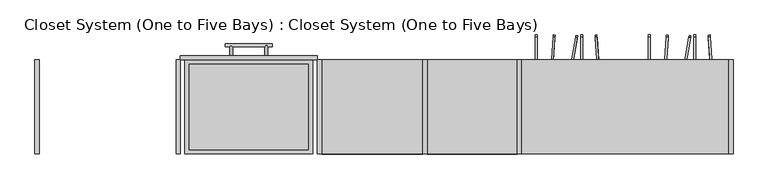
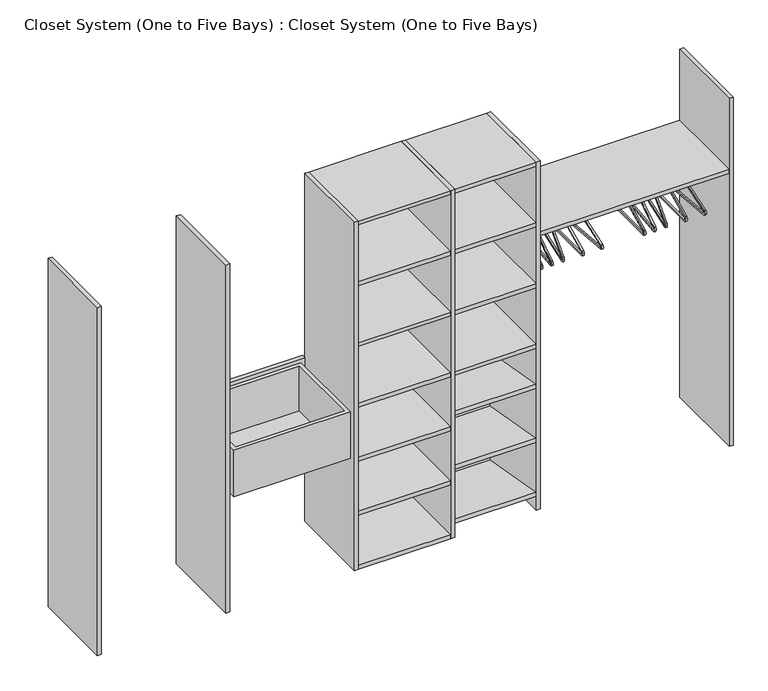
"""IFC4 building model written with IfcOpenShell, lengths in millimetres: furniture geometry, Closet System (One to Five Bays) : Closet System (One to Five Bays)."""

from ifc_helpers import new_model, si_unit, point, frame, frame_2d, origin, place, context, project, spatial, polyline, circle_curve, ellipse_curve, trimmed, segment, composite_curve, outline, extrude, faceted_brep, source, transform, mapped, element, save
from ifc_brep_helpers import plane_surface, cylinder_surface, advanced_brep


def closet_system_one_to_five_bays_closet_system_one_to_five_3dc5d13a(model_context):
    return source(origin(), model_context, "Body", "SolidModel", [
        extrude(outline(polyline([(3016.25, 0.0), (2997.2, 0.0), (2997.2, 406.4), (3016.25, 406.4), (3016.25, 0.0)])), frame((0.0, 0.0, 82.55), z_axis=(0.0, 0.0, 1.0), x_axis=(1.0, 0.0, 0.0)), (0.0, 0.0, 1.0), 1746.25),
        extrude(outline(polyline([(2101.85, 0.0), (2082.8, 0.0), (2082.8, 406.4), (2101.85, 406.4), (2101.85, 0.0)])), frame((0.0, 0.0, 82.55), z_axis=(0.0, 0.0, 1.0), x_axis=(1.0, 0.0, 0.0)), (0.0, 0.0, 1.0), 1746.25),
        extrude(outline(polyline([(1695.45, 0.0), (1676.4, 0.0), (1676.4, 406.4), (1695.45, 406.4), (1695.45, 0.0)])), frame((0.0, 0.0, 82.55), z_axis=(0.0, 0.0, 1.0), x_axis=(1.0, 0.0, 0.0)), (0.0, 0.0, 1.0), 1746.25),
        extrude(outline(polyline([(1238.25, 0.0), (1219.2, 0.0), (1219.2, 406.4), (1238.25, 406.4), (1238.25, 0.0)])), frame((0.0, 0.0, 82.55), z_axis=(0.0, 0.0, 1.0), x_axis=(1.0, 0.0, 0.0)), (0.0, 0.0, 1.0), 1746.25),
        extrude(outline(polyline([(628.65, 0.0), (609.6, 0.0), (609.6, 406.4), (628.65, 406.4), (628.65, 0.0)])), frame((0.0, 0.0, 82.55), z_axis=(0.0, 0.0, 1.0), x_axis=(1.0, 0.0, 0.0)), (0.0, 0.0, 1.0), 1746.25),
        extrude(outline(polyline([(19.05, 0.0), (0.0, 0.0), (0.0, 406.4), (19.05, 406.4), (19.05, 0.0)])), frame((0.0, 0.0, 82.55), z_axis=(0.0, 0.0, 1.0), x_axis=(1.0, 0.0, 0.0)), (0.0, 0.0, 1.0), 1746.25),
        faceted_brep([(1695.45, 0.0, 1200.15), (2082.8, 0.0, 1200.15), (2082.8, 0.0, 1219.2), (1695.45, 0.0, 1219.2), (1695.45, 387.35, 1200.15), (1695.45, 406.4, 1200.15), (2082.8, 406.4, 1200.15), (2082.8, 387.35, 1200.15), (1695.45, 387.35, 1219.2), (1695.45, 406.4, 1219.2), (2082.8, 406.4, 1219.2), (2082.8, 387.35, 1219.2)], [[[0, 1, 2, 3]], [[0, 4, 5, 6, 7, 1]], [[5, 4, 0, 3, 8, 9]], [[1, 7, 6, 10, 11, 2]], [[9, 10, 6, 5]], [[9, 8, 3, 2, 11, 10]]]),
        faceted_brep([(1695.45, 406.4, 1504.95), (1695.45, 387.35, 1504.95), (1695.45, 0.0, 1504.95), (1695.45, 0.0, 1524.0), (1695.45, 387.35, 1524.0), (1695.45, 406.4, 1524.0), (2082.8, 0.0, 1504.95), (2082.8, 387.35, 1504.95), (2082.8, 406.4, 1504.95), (2082.8, 406.4, 1524.0), (2082.8, 387.35, 1524.0), (2082.8, 0.0, 1524.0)], [[[0, 1, 2, 3, 4, 5]], [[6, 7, 8, 9, 10, 11]], [[2, 1, 0, 8, 7, 6]], [[5, 9, 8, 0]], [[5, 4, 3, 11, 10, 9]], [[2, 6, 11, 3]]]),
        extrude(outline(polyline([(406.4, 686.951959), (395.3733407, 624.4166667), (0.0, 694.1316541), (3.3079978, 712.8922418), (379.9207508, 646.4852521), (387.6394123, 690.2599568), (406.4, 686.951959)])), frame((1695.45, 0.0, 0.0), z_axis=(1.0, 0.0, 0.0), x_axis=(0.0, 1.0, 0.0)), (0.0, 0.0, 1.0), 387.35),
        extrude(outline(polyline([(406.4, 416.0186256), (395.3733407, 353.4833333), (0.0, 423.1983208), (3.3079978, 441.9589084), (379.9207508, 375.5519188), (387.6394123, 419.3266234), (406.4, 416.0186256)])), frame((1695.45, 0.0, 0.0), z_axis=(1.0, 0.0, 0.0), x_axis=(0.0, 1.0, 0.0)), (0.0, 0.0, 1.0), 387.35),
        extrude(outline(polyline([(406.4, 145.0852923), (395.3733407, 82.55), (0.0, 152.2649874), (3.3079978, 171.0255751), (379.9207508, 104.6185855), (387.6394123, 148.3932901), (406.4, 145.0852923)])), frame((1695.45, 0.0, 0.0), z_axis=(1.0, 0.0, 0.0), x_axis=(0.0, 1.0, 0.0)), (0.0, 0.0, 1.0), 387.35),
        extrude(outline(polyline([(2082.8, 406.4), (2082.8, 0.0), (1695.45, 0.0), (1695.45, 406.4), (2082.8, 406.4)])), frame((0.0, 0.0, 895.35), z_axis=(0.0, 0.0, 1.0), x_axis=(1.0, 0.0, 0.0)), (0.0, 0.0, 1.0), 19.05),
        extrude(outline(polyline([(2082.8, 406.4), (2082.8, 0.0), (1695.45, 0.0), (1695.45, 406.4), (2082.8, 406.4)])), frame((0.0, 0.0, 1809.75), z_axis=(0.0, 0.0, 1.0), x_axis=(1.0, 0.0, 0.0)), (0.0, 0.0, 1.0), 19.05),
        extrude(outline(composite_curve([segment(polyline([(0.0, 7.62), (209.55, 7.62)]), True, "CONTINUOUS"), segment(trimmed(circle_curve(frame_2d((209.55, -5.08)), 12.7), [point((209.55, 7.62))], [point((215.0168758, -16.5431265))], False, "CARTESIAN"), True, "CONTINUOUS"), segment(polyline([(215.0168758, -16.5431265), (-140.3400452, -186.0162767)]), True, "CONTINUOUS"), segment(trimmed(circle_curve(frame_2d((-145.806921, -174.5531502)), 12.7), [point((-140.3400452, -186.0162767))], [point((-155.675817, -166.559722))], False, "CARTESIAN"), True, "CONTINUOUS"), segment(polyline([(-155.675817, -166.559722), (-19.6406824, 1.3928203)]), True, "CONTINUOUS"), segment(trimmed(circle_curve(frame_2d((-29.5095783, 9.3862485)), 12.7), [point((-19.6406824, 1.3928203))], [point((-18.0464518, 14.8531243))], True, "CARTESIAN"), True, "CONTINUOUS"), segment(polyline([(-18.0464518, 14.8531243), (-24.2041701, 27.7648322)]), True, "CONTINUOUS"), segment(trimmed(circle_curve(frame_2d((-35.6672966, 22.2979563)), 12.7), [point((-24.2041701, 27.7648322))], [point((-31.4273071, 34.2692757))], True, "CARTESIAN"), True, "CONTINUOUS"), segment(polyline([(-31.4273071, 34.2692757), (-50.411263, 40.9929937)]), True, "CONTINUOUS"), segment(trimmed(circle_curve(frame_2d((-41.931284, 64.9356325)), 25.4), [point((-50.411263, 40.9929937))], [point((-19.005031, 75.8693841))], False, "CARTESIAN"), True, "CONTINUOUS"), segment(polyline([(-19.005031, 75.8693841), (-25.882907, 72.5892586)]), True, "CONTINUOUS"), segment(trimmed(circle_curve(frame_2d((-41.931284, 64.9356325)), 17.78), [point((-25.882907, 72.5892586))], [point((-47.8672693, 48.1757852))], True, "CARTESIAN"), True, "CONTINUOUS"), segment(polyline([(-47.8672693, 48.1757852), (-28.8833133, 41.4520674)]), True, "CONTINUOUS"), segment(trimmed(circle_curve(frame_2d((-35.6672966, 22.2979563)), 20.32), [point((-28.8833133, 41.4520674))], [point((-17.3262942, 31.0449576))], False, "CARTESIAN"), True, "CONTINUOUS"), segment(polyline([(-17.3262942, 31.0449576), (-11.1685759, 18.1332497)]), True, "CONTINUOUS"), segment(trimmed(circle_curve(frame_2d((-29.5095783, 9.3862485)), 20.32), [point((-11.1685759, 18.1332497))], [point((-13.7193449, -3.4032366))], False, "CARTESIAN"), True, "CONTINUOUS"), segment(polyline([(-13.7193449, -3.4032366), (-149.7544794, -171.3557789)]), True, "CONTINUOUS"), segment(trimmed(circle_curve(frame_2d((-145.806921, -174.5531502)), 5.08), [point((-149.7544794, -171.3557789))], [point((-143.6201707, -179.1384008))], True, "CARTESIAN"), True, "CONTINUOUS"), segment(polyline([(-143.6201707, -179.1384008), (211.7367503, -9.6652506)]), True, "CONTINUOUS"), segment(trimmed(circle_curve(frame_2d((209.55, -5.08)), 5.08), [point((211.7367503, -9.6652506))], [point((209.55, 0.0))], True, "CARTESIAN"), True, "CONTINUOUS"), segment(polyline([(209.55, 0.0), (0.0, 0.0), (0.0, 7.62)]), True, "CONTINUOUS")], self_intersect=False)), frame((2796.0338405, 294.3935669, 1307.6387015), z_axis=(-0.9848077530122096, 0.17364817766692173, 0.0), x_axis=(-0.15673630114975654, -0.8888957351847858, -0.4304626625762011)), (0.0, 0.0, 1.0), 7.62),
        extrude(outline(composite_curve([segment(polyline([(1e-07, 7.62), (209.55, 7.6199999)]), True, "CONTINUOUS"), segment(trimmed(circle_curve(frame_2d((209.55, 12.6999999)), 5.08), [point((209.55, 7.6199999))], [point((211.7367504, 17.2852505))], True, "CARTESIAN"), True, "CONTINUOUS"), segment(polyline([(211.7367504, 17.2852505), (-143.6201707, 186.7584008)]), True, "CONTINUOUS"), segment(trimmed(circle_curve(frame_2d((-145.806921, 182.1731502)), 5.08), [point((-143.6201707, 186.7584008))], [point((-149.7544794, 178.9757789))], True, "CARTESIAN"), True, "CONTINUOUS"), segment(polyline([(-149.7544794, 178.9757789), (-13.7193448, 11.0232366)]), True, "CONTINUOUS"), segment(trimmed(circle_curve(frame_2d((-29.5095783, -1.7662484)), 20.32), [point((-13.7193448, 11.0232366))], [point((-11.1685759, -10.5132497))], False, "CARTESIAN"), True, "CONTINUOUS"), segment(polyline([(-11.1685759, -10.5132497), (-17.3262942, -23.4249576)]), True, "CONTINUOUS"), segment(trimmed(circle_curve(frame_2d((-35.6672966, -14.6779563)), 20.32), [point((-17.3262942, -23.4249576))], [point((-28.8833133, -33.8320674))], False, "CARTESIAN"), True, "CONTINUOUS"), segment(polyline([(-28.8833133, -33.8320674), (-47.8672693, -40.5557852)]), True, "CONTINUOUS"), segment(trimmed(circle_curve(frame_2d((-41.931284, -57.3156325)), 17.78), [point((-47.8672693, -40.5557852))], [point((-25.8829069, -64.9692586))], True, "CARTESIAN"), True, "CONTINUOUS"), segment(polyline([(-25.8829069, -64.9692586), (-19.0050311, -68.2493841)]), True, "CONTINUOUS"), segment(trimmed(circle_curve(frame_2d((-41.931284, -57.3156325)), 25.4), [point((-19.0050311, -68.2493841))], [point((-50.4112631, -33.3729936))], False, "CARTESIAN"), True, "CONTINUOUS"), segment(polyline([(-50.4112631, -33.3729936), (-31.427307, -26.6492757)]), True, "CONTINUOUS"), segment(trimmed(circle_curve(frame_2d((-35.6672966, -14.6779563)), 12.7), [point((-31.427307, -26.6492757))], [point((-24.20417, -20.1448322))], True, "CARTESIAN"), True, "CONTINUOUS"), segment(polyline([(-24.20417, -20.1448322), (-18.0464518, -7.2331243)]), True, "CONTINUOUS"), segment(trimmed(circle_curve(frame_2d((-29.5095783, -1.7662484)), 12.7), [point((-18.0464518, -7.2331243))], [point((-19.6406824, 6.2271797))], True, "CARTESIAN"), True, "CONTINUOUS"), segment(polyline([(-19.6406824, 6.2271797), (-155.6758169, 174.179722)]), True, "CONTINUOUS"), segment(trimmed(circle_curve(frame_2d((-145.806921, 182.1731502)), 12.7), [point((-155.6758169, 174.179722))], [point((-140.3400452, 193.6362767))], False, "CARTESIAN"), True, "CONTINUOUS"), segment(polyline([(-140.3400452, 193.6362767), (215.0168759, 24.1631264)]), True, "CONTINUOUS"), segment(trimmed(circle_curve(frame_2d((209.55, 12.6999999)), 12.7), [point((215.0168759, 24.1631264))], [point((209.55, 0.0))], False, "CARTESIAN"), True, "CONTINUOUS"), segment(polyline([(209.55, 0.0), (0.0, 0.0), (1e-07, 7.62)]), True, "CONTINUOUS")], self_intersect=False)), frame((2924.4683427, 291.3910334, 1314.5165774), z_axis=(0.9975640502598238, 0.06975647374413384, 0.0), x_axis=(0.06296277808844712, -0.9004096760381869, -0.4304626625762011)), (0.0, 0.0, 1.0), 7.62),
        extrude(outline(composite_curve([segment(polyline([(-1e-07, 7.62), (209.5499999, 7.62)]), True, "CONTINUOUS"), segment(trimmed(circle_curve(frame_2d((209.55, -5.08)), 12.7), [point((209.5499999, 7.62))], [point((215.0168758, -16.5431265))], False, "CARTESIAN"), True, "CONTINUOUS"), segment(polyline([(215.0168758, -16.5431265), (-140.3400453, -186.0162767)]), True, "CONTINUOUS"), segment(trimmed(circle_curve(frame_2d((-145.8069211, -174.5531502)), 12.7), [point((-140.3400453, -186.0162767))], [point((-155.675817, -166.5597221))], False, "CARTESIAN"), True, "CONTINUOUS"), segment(polyline([(-155.675817, -166.5597221), (-19.6406825, 1.3928202)]), True, "CONTINUOUS"), segment(trimmed(circle_curve(frame_2d((-29.5095784, 9.3862484)), 12.7), [point((-19.6406825, 1.3928202))], [point((-18.0464518, 14.8531243))], True, "CARTESIAN"), True, "CONTINUOUS"), segment(polyline([(-18.0464518, 14.8531243), (-24.2041701, 27.7648321)]), True, "CONTINUOUS"), segment(trimmed(circle_curve(frame_2d((-35.6672967, 22.2979563)), 12.7), [point((-24.2041701, 27.7648321))], [point((-31.4273071, 34.2692757))], True, "CARTESIAN"), True, "CONTINUOUS"), segment(polyline([(-31.4273071, 34.2692757), (-50.4112631, 40.9929936)]), True, "CONTINUOUS"), segment(trimmed(circle_curve(frame_2d((-41.931284, 64.9356325)), 25.4), [point((-50.4112631, 40.9929936))], [point((-19.0050311, 75.8693841))], False, "CARTESIAN"), True, "CONTINUOUS"), segment(polyline([(-19.0050311, 75.8693841), (-25.882907, 72.5892586)]), True, "CONTINUOUS"), segment(trimmed(circle_curve(frame_2d((-41.931284, 64.9356325)), 17.78), [point((-25.882907, 72.5892586))], [point((-47.8672694, 48.1757852))], True, "CARTESIAN"), True, "CONTINUOUS"), segment(polyline([(-47.8672694, 48.1757852), (-28.8833134, 41.4520674)]), True, "CONTINUOUS"), segment(trimmed(circle_curve(frame_2d((-35.6672967, 22.2979563)), 20.32), [point((-28.8833134, 41.4520674))], [point((-17.3262943, 31.0449576))], False, "CARTESIAN"), True, "CONTINUOUS"), segment(polyline([(-17.3262943, 31.0449576), (-11.168576, 18.1332497)]), True, "CONTINUOUS"), segment(trimmed(circle_curve(frame_2d((-29.5095784, 9.3862484)), 20.32), [point((-11.168576, 18.1332497))], [point((-13.7193449, -3.4032366))], False, "CARTESIAN"), True, "CONTINUOUS"), segment(polyline([(-13.7193449, -3.4032366), (-149.7544794, -171.355779)]), True, "CONTINUOUS"), segment(trimmed(circle_curve(frame_2d((-145.8069211, -174.5531502)), 5.08), [point((-149.7544794, -171.355779))], [point((-143.6201708, -179.1384008))], True, "CARTESIAN"), True, "CONTINUOUS"), segment(polyline([(-143.6201708, -179.1384008), (211.7367503, -9.6652506)]), True, "CONTINUOUS"), segment(trimmed(circle_curve(frame_2d((209.55, -5.08)), 5.08), [point((211.7367503, -9.6652506))], [point((209.55, 0.0))], True, "CARTESIAN"), True, "CONTINUOUS"), segment(polyline([(209.55, 0.0), (0.0, 0.0), (-1e-07, 7.62)]), True, "CONTINUOUS")], self_intersect=False)), frame((2720.9104673, 294.6631686, 1307.6387015), z_axis=(-0.9975640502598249, 0.06975647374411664, 0.0), x_axis=(-0.0629627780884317, -0.900409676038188, -0.4304626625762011)), (0.0, 0.0, 1.0), 7.62),
        extrude(outline(composite_curve([segment(polyline([(294.9048367, 1307.6387015), (105.7632497, 1217.4352506)]), True, "CONTINUOUS"), segment(trimmed(circle_curve(frame_2d((107.95, 1212.85)), 5.08), [point((105.7632497, 1217.4352506))], [point((107.95, 1207.77))], True, "CARTESIAN"), True, "CONTINUOUS"), segment(polyline([(107.95, 1207.77), (501.65, 1207.77)]), True, "CONTINUOUS"), segment(trimmed(circle_curve(frame_2d((501.65, 1212.85)), 5.08), [point((501.65, 1207.77))], [point((503.8367503, 1217.4352506))], True, "CARTESIAN"), True, "CONTINUOUS"), segment(polyline([(503.8367503, 1217.4352506), (308.7529987, 1310.4725773)]), True, "CONTINUOUS"), segment(trimmed(circle_curve(frame_2d((317.5, 1328.8135797)), 20.32), [point((308.7529987, 1310.4725773))], [point((297.18, 1328.8135797))], False, "CARTESIAN"), True, "CONTINUOUS"), segment(polyline([(297.18, 1328.8135797), (297.18, 1343.1184633)]), True, "CONTINUOUS"), segment(trimmed(circle_curve(frame_2d((317.5, 1343.1184633)), 20.32), [point((297.18, 1343.1184633))], [point((303.1315902, 1357.4868731))], False, "CARTESIAN"), True, "CONTINUOUS"), segment(polyline([(303.1315902, 1357.4868731), (317.3723586, 1371.7276414)]), True, "CONTINUOUS"), segment(trimmed(circle_curve(frame_2d((304.8, 1384.3)), 17.78), [point((317.3723586, 1371.7276414))], [point((287.02, 1384.3))], True, "CARTESIAN"), True, "CONTINUOUS"), segment(polyline([(287.02, 1384.3), (279.4, 1384.3)]), True, "CONTINUOUS"), segment(trimmed(circle_curve(frame_2d((304.8, 1384.3)), 25.4), [point((279.4, 1384.3))], [point((322.7605122, 1366.3394878))], False, "CARTESIAN"), True, "CONTINUOUS"), segment(polyline([(322.7605122, 1366.3394878), (308.5197439, 1352.0987194)]), True, "CONTINUOUS"), segment(trimmed(circle_curve(frame_2d((317.5, 1343.1184633)), 12.7), [point((308.5197439, 1352.0987194))], [point((304.8, 1343.1184633))], True, "CARTESIAN"), True, "CONTINUOUS"), segment(polyline([(304.8, 1343.1184633), (304.8, 1328.8135797)]), True, "CONTINUOUS"), segment(trimmed(circle_curve(frame_2d((317.5, 1328.8135797)), 12.7), [point((304.8, 1328.8135797))], [point((312.0331242, 1317.3504532))], True, "CARTESIAN"), True, "CONTINUOUS"), segment(polyline([(312.0331242, 1317.3504532), (507.1168758, 1224.3131265)]), True, "CONTINUOUS"), segment(trimmed(circle_curve(frame_2d((501.65, 1212.85)), 12.7), [point((507.1168758, 1224.3131265))], [point((501.65, 1200.15))], False, "CARTESIAN"), True, "CONTINUOUS"), segment(polyline([(501.65, 1200.15), (107.95, 1200.15)]), True, "CONTINUOUS"), segment(trimmed(circle_curve(frame_2d((107.95, 1212.85)), 12.7), [point((107.95, 1200.15))], [point((102.4831242, 1224.3131265))], False, "CARTESIAN"), True, "CONTINUOUS"), segment(polyline([(102.4831242, 1224.3131265), (291.6247112, 1314.5165774), (294.9048367, 1307.6387015)]), True, "CONTINUOUS")], self_intersect=False)), frame((2847.34, 0.0, 0.0), z_axis=(1.0, 0.0, 0.0), x_axis=(0.0, 1.0, 0.0)), (0.0, 0.0, 1.0), 7.62),
        extrude(outline(composite_curve([segment(polyline([(294.9048367, 1307.6387015), (105.7632497, 1217.4352506)]), True, "CONTINUOUS"), segment(trimmed(circle_curve(frame_2d((107.95, 1212.85)), 5.08), [point((105.7632497, 1217.4352506))], [point((107.95, 1207.77))], True, "CARTESIAN"), True, "CONTINUOUS"), segment(polyline([(107.95, 1207.77), (501.65, 1207.77)]), True, "CONTINUOUS"), segment(trimmed(circle_curve(frame_2d((501.65, 1212.85)), 5.08), [point((501.65, 1207.77))], [point((503.8367503, 1217.4352506))], True, "CARTESIAN"), True, "CONTINUOUS"), segment(polyline([(503.8367503, 1217.4352506), (308.7529987, 1310.4725773)]), True, "CONTINUOUS"), segment(trimmed(circle_curve(frame_2d((317.5, 1328.8135797)), 20.32), [point((308.7529987, 1310.4725773))], [point((297.18, 1328.8135797))], False, "CARTESIAN"), True, "CONTINUOUS"), segment(polyline([(297.18, 1328.8135797), (297.18, 1343.1184633)]), True, "CONTINUOUS"), segment(trimmed(circle_curve(frame_2d((317.5, 1343.1184633)), 20.32), [point((297.18, 1343.1184633))], [point((303.1315902, 1357.4868731))], False, "CARTESIAN"), True, "CONTINUOUS"), segment(polyline([(303.1315902, 1357.4868731), (317.3723586, 1371.7276414)]), True, "CONTINUOUS"), segment(trimmed(circle_curve(frame_2d((304.8, 1384.3)), 17.78), [point((317.3723586, 1371.7276414))], [point((287.02, 1384.3))], True, "CARTESIAN"), True, "CONTINUOUS"), segment(polyline([(287.02, 1384.3), (279.4, 1384.3)]), True, "CONTINUOUS"), segment(trimmed(circle_curve(frame_2d((304.8, 1384.3)), 25.4), [point((279.4, 1384.3))], [point((322.7605122, 1366.3394878))], False, "CARTESIAN"), True, "CONTINUOUS"), segment(polyline([(322.7605122, 1366.3394878), (308.5197439, 1352.0987194)]), True, "CONTINUOUS"), segment(trimmed(circle_curve(frame_2d((317.5, 1343.1184633)), 12.7), [point((308.5197439, 1352.0987194))], [point((304.8, 1343.1184633))], True, "CARTESIAN"), True, "CONTINUOUS"), segment(polyline([(304.8, 1343.1184633), (304.8, 1328.8135797)]), True, "CONTINUOUS"), segment(trimmed(circle_curve(frame_2d((317.5, 1328.8135797)), 12.7), [point((304.8, 1328.8135797))], [point((312.0331242, 1317.3504532))], True, "CARTESIAN"), True, "CONTINUOUS"), segment(polyline([(312.0331242, 1317.3504532), (507.1168758, 1224.3131265)]), True, "CONTINUOUS"), segment(trimmed(circle_curve(frame_2d((501.65, 1212.85)), 12.7), [point((507.1168758, 1224.3131265))], [point((501.65, 1200.15))], False, "CARTESIAN"), True, "CONTINUOUS"), segment(polyline([(501.65, 1200.15), (107.95, 1200.15)]), True, "CONTINUOUS"), segment(trimmed(circle_curve(frame_2d((107.95, 1212.85)), 12.7), [point((107.95, 1200.15))], [point((102.4831242, 1224.3131265))], False, "CARTESIAN"), True, "CONTINUOUS"), segment(polyline([(102.4831242, 1224.3131265), (291.6247112, 1314.5165774), (294.9048367, 1307.6387015)]), True, "CONTINUOUS")], self_intersect=False)), frame((2650.49, 0.0, 0.0), z_axis=(1.0, 0.0, 0.0), x_axis=(0.0, 1.0, 0.0)), (0.0, 0.0, 1.0), 7.62),
        extrude(outline(composite_curve([segment(polyline([(0.0, 7.62), (209.55, 7.62)]), True, "CONTINUOUS"), segment(trimmed(circle_curve(frame_2d((209.55, -5.08)), 12.7), [point((209.55, 7.62))], [point((215.0168758, -16.5431265))], False, "CARTESIAN"), True, "CONTINUOUS"), segment(polyline([(215.0168758, -16.5431265), (-140.3400452, -186.0162767)]), True, "CONTINUOUS"), segment(trimmed(circle_curve(frame_2d((-145.806921, -174.5531502)), 12.7), [point((-140.3400452, -186.0162767))], [point((-155.675817, -166.559722))], False, "CARTESIAN"), True, "CONTINUOUS"), segment(polyline([(-155.675817, -166.559722), (-19.6406824, 1.3928203)]), True, "CONTINUOUS"), segment(trimmed(circle_curve(frame_2d((-29.5095783, 9.3862485)), 12.7), [point((-19.6406824, 1.3928203))], [point((-18.0464518, 14.8531243))], True, "CARTESIAN"), True, "CONTINUOUS"), segment(polyline([(-18.0464518, 14.8531243), (-24.2041701, 27.7648322)]), True, "CONTINUOUS"), segment(trimmed(circle_curve(frame_2d((-35.6672966, 22.2979563)), 12.7), [point((-24.2041701, 27.7648322))], [point((-31.4273071, 34.2692757))], True, "CARTESIAN"), True, "CONTINUOUS"), segment(polyline([(-31.4273071, 34.2692757), (-50.411263, 40.9929937)]), True, "CONTINUOUS"), segment(trimmed(circle_curve(frame_2d((-41.931284, 64.9356325)), 25.4), [point((-50.411263, 40.9929937))], [point((-19.005031, 75.8693841))], False, "CARTESIAN"), True, "CONTINUOUS"), segment(polyline([(-19.005031, 75.8693841), (-25.882907, 72.5892586)]), True, "CONTINUOUS"), segment(trimmed(circle_curve(frame_2d((-41.931284, 64.9356325)), 17.78), [point((-25.882907, 72.5892586))], [point((-47.8672693, 48.1757852))], True, "CARTESIAN"), True, "CONTINUOUS"), segment(polyline([(-47.8672693, 48.1757852), (-28.8833133, 41.4520674)]), True, "CONTINUOUS"), segment(trimmed(circle_curve(frame_2d((-35.6672966, 22.2979563)), 20.32), [point((-28.8833133, 41.4520674))], [point((-17.3262942, 31.0449576))], False, "CARTESIAN"), True, "CONTINUOUS"), segment(polyline([(-17.3262942, 31.0449576), (-11.1685759, 18.1332497)]), True, "CONTINUOUS"), segment(trimmed(circle_curve(frame_2d((-29.5095783, 9.3862485)), 20.32), [point((-11.1685759, 18.1332497))], [point((-13.7193449, -3.4032366))], False, "CARTESIAN"), True, "CONTINUOUS"), segment(polyline([(-13.7193449, -3.4032366), (-149.7544794, -171.3557789)]), True, "CONTINUOUS"), segment(trimmed(circle_curve(frame_2d((-145.806921, -174.5531502)), 5.08), [point((-149.7544794, -171.3557789))], [point((-143.6201707, -179.1384008))], True, "CARTESIAN"), True, "CONTINUOUS"), segment(polyline([(-143.6201707, -179.1384008), (211.7367503, -9.6652506)]), True, "CONTINUOUS"), segment(trimmed(circle_curve(frame_2d((209.55, -5.08)), 5.08), [point((211.7367503, -9.6652506))], [point((209.55, 0.0))], True, "CARTESIAN"), True, "CONTINUOUS"), segment(polyline([(209.55, 0.0), (0.0, 0.0), (0.0, 7.62)]), True, "CONTINUOUS")], self_intersect=False)), frame((2307.0838405, 294.3935669, 1307.6387015), z_axis=(-0.9848077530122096, 0.17364817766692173, 0.0), x_axis=(-0.15673630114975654, -0.8888957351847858, -0.4304626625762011)), (0.0, 0.0, 1.0), 7.62),
        extrude(outline(composite_curve([segment(polyline([(1e-07, 7.62), (209.55, 7.6199999)]), True, "CONTINUOUS"), segment(trimmed(circle_curve(frame_2d((209.55, 12.6999999)), 5.08), [point((209.55, 7.6199999))], [point((211.7367504, 17.2852505))], True, "CARTESIAN"), True, "CONTINUOUS"), segment(polyline([(211.7367504, 17.2852505), (-143.6201707, 186.7584008)]), True, "CONTINUOUS"), segment(trimmed(circle_curve(frame_2d((-145.806921, 182.1731502)), 5.08), [point((-143.6201707, 186.7584008))], [point((-149.7544794, 178.9757789))], True, "CARTESIAN"), True, "CONTINUOUS"), segment(polyline([(-149.7544794, 178.9757789), (-13.7193448, 11.0232366)]), True, "CONTINUOUS"), segment(trimmed(circle_curve(frame_2d((-29.5095783, -1.7662484)), 20.32), [point((-13.7193448, 11.0232366))], [point((-11.1685759, -10.5132497))], False, "CARTESIAN"), True, "CONTINUOUS"), segment(polyline([(-11.1685759, -10.5132497), (-17.3262942, -23.4249576)]), True, "CONTINUOUS"), segment(trimmed(circle_curve(frame_2d((-35.6672966, -14.6779563)), 20.32), [point((-17.3262942, -23.4249576))], [point((-28.8833133, -33.8320674))], False, "CARTESIAN"), True, "CONTINUOUS"), segment(polyline([(-28.8833133, -33.8320674), (-47.8672693, -40.5557852)]), True, "CONTINUOUS"), segment(trimmed(circle_curve(frame_2d((-41.931284, -57.3156325)), 17.78), [point((-47.8672693, -40.5557852))], [point((-25.8829069, -64.9692586))], True, "CARTESIAN"), True, "CONTINUOUS"), segment(polyline([(-25.8829069, -64.9692586), (-19.0050311, -68.2493841)]), True, "CONTINUOUS"), segment(trimmed(circle_curve(frame_2d((-41.931284, -57.3156325)), 25.4), [point((-19.0050311, -68.2493841))], [point((-50.4112631, -33.3729936))], False, "CARTESIAN"), True, "CONTINUOUS"), segment(polyline([(-50.4112631, -33.3729936), (-31.427307, -26.6492757)]), True, "CONTINUOUS"), segment(trimmed(circle_curve(frame_2d((-35.6672966, -14.6779563)), 12.7), [point((-31.427307, -26.6492757))], [point((-24.20417, -20.1448322))], True, "CARTESIAN"), True, "CONTINUOUS"), segment(polyline([(-24.20417, -20.1448322), (-18.0464518, -7.2331243)]), True, "CONTINUOUS"), segment(trimmed(circle_curve(frame_2d((-29.5095783, -1.7662484)), 12.7), [point((-18.0464518, -7.2331243))], [point((-19.6406824, 6.2271797))], True, "CARTESIAN"), True, "CONTINUOUS"), segment(polyline([(-19.6406824, 6.2271797), (-155.6758169, 174.179722)]), True, "CONTINUOUS"), segment(trimmed(circle_curve(frame_2d((-145.806921, 182.1731502)), 12.7), [point((-155.6758169, 174.179722))], [point((-140.3400452, 193.6362767))], False, "CARTESIAN"), True, "CONTINUOUS"), segment(polyline([(-140.3400452, 193.6362767), (215.0168759, 24.1631264)]), True, "CONTINUOUS"), segment(trimmed(circle_curve(frame_2d((209.55, 12.6999999)), 12.7), [point((215.0168759, 24.1631264))], [point((209.55, 0.0))], False, "CARTESIAN"), True, "CONTINUOUS"), segment(polyline([(209.55, 0.0), (0.0, 0.0), (1e-07, 7.62)]), True, "CONTINUOUS")], self_intersect=False)), frame((2435.5183427, 291.3910334, 1314.5165774), z_axis=(0.9975640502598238, 0.06975647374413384, 0.0), x_axis=(0.06296277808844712, -0.9004096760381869, -0.4304626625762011)), (0.0, 0.0, 1.0), 7.62),
        extrude(outline(composite_curve([segment(polyline([(-1e-07, 7.62), (209.5499999, 7.62)]), True, "CONTINUOUS"), segment(trimmed(circle_curve(frame_2d((209.55, -5.08)), 12.7), [point((209.5499999, 7.62))], [point((215.0168758, -16.5431265))], False, "CARTESIAN"), True, "CONTINUOUS"), segment(polyline([(215.0168758, -16.5431265), (-140.3400453, -186.0162767)]), True, "CONTINUOUS"), segment(trimmed(circle_curve(frame_2d((-145.8069211, -174.5531502)), 12.7), [point((-140.3400453, -186.0162767))], [point((-155.675817, -166.5597221))], False, "CARTESIAN"), True, "CONTINUOUS"), segment(polyline([(-155.675817, -166.5597221), (-19.6406825, 1.3928202)]), True, "CONTINUOUS"), segment(trimmed(circle_curve(frame_2d((-29.5095784, 9.3862484)), 12.7), [point((-19.6406825, 1.3928202))], [point((-18.0464518, 14.8531243))], True, "CARTESIAN"), True, "CONTINUOUS"), segment(polyline([(-18.0464518, 14.8531243), (-24.2041701, 27.7648321)]), True, "CONTINUOUS"), segment(trimmed(circle_curve(frame_2d((-35.6672967, 22.2979563)), 12.7), [point((-24.2041701, 27.7648321))], [point((-31.4273071, 34.2692757))], True, "CARTESIAN"), True, "CONTINUOUS"), segment(polyline([(-31.4273071, 34.2692757), (-50.4112631, 40.9929936)]), True, "CONTINUOUS"), segment(trimmed(circle_curve(frame_2d((-41.931284, 64.9356325)), 25.4), [point((-50.4112631, 40.9929936))], [point((-19.0050311, 75.8693841))], False, "CARTESIAN"), True, "CONTINUOUS"), segment(polyline([(-19.0050311, 75.8693841), (-25.882907, 72.5892586)]), True, "CONTINUOUS"), segment(trimmed(circle_curve(frame_2d((-41.931284, 64.9356325)), 17.78), [point((-25.882907, 72.5892586))], [point((-47.8672694, 48.1757852))], True, "CARTESIAN"), True, "CONTINUOUS"), segment(polyline([(-47.8672694, 48.1757852), (-28.8833134, 41.4520674)]), True, "CONTINUOUS"), segment(trimmed(circle_curve(frame_2d((-35.6672967, 22.2979563)), 20.32), [point((-28.8833134, 41.4520674))], [point((-17.3262943, 31.0449576))], False, "CARTESIAN"), True, "CONTINUOUS"), segment(polyline([(-17.3262943, 31.0449576), (-11.168576, 18.1332497)]), True, "CONTINUOUS"), segment(trimmed(circle_curve(frame_2d((-29.5095784, 9.3862484)), 20.32), [point((-11.168576, 18.1332497))], [point((-13.7193449, -3.4032366))], False, "CARTESIAN"), True, "CONTINUOUS"), segment(polyline([(-13.7193449, -3.4032366), (-149.7544794, -171.355779)]), True, "CONTINUOUS"), segment(trimmed(circle_curve(frame_2d((-145.8069211, -174.5531502)), 5.08), [point((-149.7544794, -171.355779))], [point((-143.6201708, -179.1384008))], True, "CARTESIAN"), True, "CONTINUOUS"), segment(polyline([(-143.6201708, -179.1384008), (211.7367503, -9.6652506)]), True, "CONTINUOUS"), segment(trimmed(circle_curve(frame_2d((209.55, -5.08)), 5.08), [point((211.7367503, -9.6652506))], [point((209.55, 0.0))], True, "CARTESIAN"), True, "CONTINUOUS"), segment(polyline([(209.55, 0.0), (0.0, 0.0), (-1e-07, 7.62)]), True, "CONTINUOUS")], self_intersect=False)), frame((2231.9604673, 294.6631686, 1307.6387015), z_axis=(-0.9975640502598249, 0.06975647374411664, 0.0), x_axis=(-0.0629627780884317, -0.900409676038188, -0.4304626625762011)), (0.0, 0.0, 1.0), 7.62),
        extrude(outline(composite_curve([segment(polyline([(294.9048367, 1307.6387015), (105.7632497, 1217.4352506)]), True, "CONTINUOUS"), segment(trimmed(circle_curve(frame_2d((107.95, 1212.85)), 5.08), [point((105.7632497, 1217.4352506))], [point((107.95, 1207.77))], True, "CARTESIAN"), True, "CONTINUOUS"), segment(polyline([(107.95, 1207.77), (501.65, 1207.77)]), True, "CONTINUOUS"), segment(trimmed(circle_curve(frame_2d((501.65, 1212.85)), 5.08), [point((501.65, 1207.77))], [point((503.8367503, 1217.4352506))], True, "CARTESIAN"), True, "CONTINUOUS"), segment(polyline([(503.8367503, 1217.4352506), (308.7529987, 1310.4725773)]), True, "CONTINUOUS"), segment(trimmed(circle_curve(frame_2d((317.5, 1328.8135797)), 20.32), [point((308.7529987, 1310.4725773))], [point((297.18, 1328.8135797))], False, "CARTESIAN"), True, "CONTINUOUS"), segment(polyline([(297.18, 1328.8135797), (297.18, 1343.1184633)]), True, "CONTINUOUS"), segment(trimmed(circle_curve(frame_2d((317.5, 1343.1184633)), 20.32), [point((297.18, 1343.1184633))], [point((303.1315902, 1357.4868731))], False, "CARTESIAN"), True, "CONTINUOUS"), segment(polyline([(303.1315902, 1357.4868731), (317.3723586, 1371.7276414)]), True, "CONTINUOUS"), segment(trimmed(circle_curve(frame_2d((304.8, 1384.3)), 17.78), [point((317.3723586, 1371.7276414))], [point((287.02, 1384.3))], True, "CARTESIAN"), True, "CONTINUOUS"), segment(polyline([(287.02, 1384.3), (279.4, 1384.3)]), True, "CONTINUOUS"), segment(trimmed(circle_curve(frame_2d((304.8, 1384.3)), 25.4), [point((279.4, 1384.3))], [point((322.7605122, 1366.3394878))], False, "CARTESIAN"), True, "CONTINUOUS"), segment(polyline([(322.7605122, 1366.3394878), (308.5197439, 1352.0987194)]), True, "CONTINUOUS"), segment(trimmed(circle_curve(frame_2d((317.5, 1343.1184633)), 12.7), [point((308.5197439, 1352.0987194))], [point((304.8, 1343.1184633))], True, "CARTESIAN"), True, "CONTINUOUS"), segment(polyline([(304.8, 1343.1184633), (304.8, 1328.8135797)]), True, "CONTINUOUS"), segment(trimmed(circle_curve(frame_2d((317.5, 1328.8135797)), 12.7), [point((304.8, 1328.8135797))], [point((312.0331242, 1317.3504532))], True, "CARTESIAN"), True, "CONTINUOUS"), segment(polyline([(312.0331242, 1317.3504532), (507.1168758, 1224.3131265)]), True, "CONTINUOUS"), segment(trimmed(circle_curve(frame_2d((501.65, 1212.85)), 12.7), [point((507.1168758, 1224.3131265))], [point((501.65, 1200.15))], False, "CARTESIAN"), True, "CONTINUOUS"), segment(polyline([(501.65, 1200.15), (107.95, 1200.15)]), True, "CONTINUOUS"), segment(trimmed(circle_curve(frame_2d((107.95, 1212.85)), 12.7), [point((107.95, 1200.15))], [point((102.4831242, 1224.3131265))], False, "CARTESIAN"), True, "CONTINUOUS"), segment(polyline([(102.4831242, 1224.3131265), (291.6247112, 1314.5165774), (294.9048367, 1307.6387015)]), True, "CONTINUOUS")], self_intersect=False)), frame((2358.39, 0.0, 0.0), z_axis=(1.0, 0.0, 0.0), x_axis=(0.0, 1.0, 0.0)), (0.0, 0.0, 1.0), 7.62),
        extrude(outline(composite_curve([segment(polyline([(294.9048367, 1307.6387015), (105.7632497, 1217.4352506)]), True, "CONTINUOUS"), segment(trimmed(circle_curve(frame_2d((107.95, 1212.85)), 5.08), [point((105.7632497, 1217.4352506))], [point((107.95, 1207.77))], True, "CARTESIAN"), True, "CONTINUOUS"), segment(polyline([(107.95, 1207.77), (501.65, 1207.77)]), True, "CONTINUOUS"), segment(trimmed(circle_curve(frame_2d((501.65, 1212.85)), 5.08), [point((501.65, 1207.77))], [point((503.8367503, 1217.4352506))], True, "CARTESIAN"), True, "CONTINUOUS"), segment(polyline([(503.8367503, 1217.4352506), (308.7529987, 1310.4725773)]), True, "CONTINUOUS"), segment(trimmed(circle_curve(frame_2d((317.5, 1328.8135797)), 20.32), [point((308.7529987, 1310.4725773))], [point((297.18, 1328.8135797))], False, "CARTESIAN"), True, "CONTINUOUS"), segment(polyline([(297.18, 1328.8135797), (297.18, 1343.1184633)]), True, "CONTINUOUS"), segment(trimmed(circle_curve(frame_2d((317.5, 1343.1184633)), 20.32), [point((297.18, 1343.1184633))], [point((303.1315902, 1357.4868731))], False, "CARTESIAN"), True, "CONTINUOUS"), segment(polyline([(303.1315902, 1357.4868731), (317.3723586, 1371.7276414)]), True, "CONTINUOUS"), segment(trimmed(circle_curve(frame_2d((304.8, 1384.3)), 17.78), [point((317.3723586, 1371.7276414))], [point((287.02, 1384.3))], True, "CARTESIAN"), True, "CONTINUOUS"), segment(polyline([(287.02, 1384.3), (279.4, 1384.3)]), True, "CONTINUOUS"), segment(trimmed(circle_curve(frame_2d((304.8, 1384.3)), 25.4), [point((279.4, 1384.3))], [point((322.7605122, 1366.3394878))], False, "CARTESIAN"), True, "CONTINUOUS"), segment(polyline([(322.7605122, 1366.3394878), (308.5197439, 1352.0987194)]), True, "CONTINUOUS"), segment(trimmed(circle_curve(frame_2d((317.5, 1343.1184633)), 12.7), [point((308.5197439, 1352.0987194))], [point((304.8, 1343.1184633))], True, "CARTESIAN"), True, "CONTINUOUS"), segment(polyline([(304.8, 1343.1184633), (304.8, 1328.8135797)]), True, "CONTINUOUS"), segment(trimmed(circle_curve(frame_2d((317.5, 1328.8135797)), 12.7), [point((304.8, 1328.8135797))], [point((312.0331242, 1317.3504532))], True, "CARTESIAN"), True, "CONTINUOUS"), segment(polyline([(312.0331242, 1317.3504532), (507.1168758, 1224.3131265)]), True, "CONTINUOUS"), segment(trimmed(circle_curve(frame_2d((501.65, 1212.85)), 12.7), [point((507.1168758, 1224.3131265))], [point((501.65, 1200.15))], False, "CARTESIAN"), True, "CONTINUOUS"), segment(polyline([(501.65, 1200.15), (107.95, 1200.15)]), True, "CONTINUOUS"), segment(trimmed(circle_curve(frame_2d((107.95, 1212.85)), 12.7), [point((107.95, 1200.15))], [point((102.4831242, 1224.3131265))], False, "CARTESIAN"), True, "CONTINUOUS"), segment(polyline([(102.4831242, 1224.3131265), (291.6247112, 1314.5165774), (294.9048367, 1307.6387015)]), True, "CONTINUOUS")], self_intersect=False)), frame((2161.54, 0.0, 0.0), z_axis=(1.0, 0.0, 0.0), x_axis=(0.0, 1.0, 0.0)), (0.0, 0.0, 1.0), 7.62),
        extrude(outline(composite_curve([segment(trimmed(circle_curve(frame_2d((304.8, 1384.3)), 12.7), [point((317.5, 1384.3))], [point((292.1, 1384.3))], False, "CARTESIAN"), True, "CONTINUOUS"), segment(trimmed(circle_curve(frame_2d((304.8, 1384.3)), 12.7), [point((292.1, 1384.3))], [point((317.5, 1384.3))], False, "CARTESIAN"), True, "CONTINUOUS")], self_intersect=False)), frame((2101.85, 0.0, 0.0), z_axis=(1.0, 0.0, 0.0), x_axis=(0.0, 1.0, 0.0)), (0.0, 0.0, 1.0), 895.35),
        extrude(outline(polyline([(2997.2, 406.4), (2997.2, 0.0), (2101.85, 0.0), (2101.85, 406.4), (2997.2, 406.4)])), frame((0.0, 0.0, 1454.15), z_axis=(0.0, 0.0, 1.0), x_axis=(1.0, 0.0, 0.0)), (0.0, 0.0, 1.0), 19.05),
        faceted_brep([(1238.25, 406.4, 1200.15), (1238.25, 387.35, 1200.15), (1238.25, 0.0, 1200.15), (1238.25, 0.0, 1219.2), (1238.25, 387.35, 1219.2), (1238.25, 406.4, 1219.2), (1676.4, 0.0, 1200.15), (1676.4, 387.35, 1200.15), (1676.4, 406.4, 1200.15), (1676.4, 406.4, 1219.2), (1676.4, 387.35, 1219.2), (1676.4, 0.0, 1219.2)], [[[0, 1, 2, 3, 4, 5]], [[6, 7, 8, 9, 10, 11]], [[2, 1, 0, 8, 7, 6]], [[5, 9, 8, 0]], [[5, 4, 3, 11, 10, 9]], [[2, 6, 11, 3]]]),
        faceted_brep([(1238.25, 406.4, 1504.95), (1238.25, 387.35, 1504.95), (1238.25, 0.0, 1504.95), (1238.25, 0.0, 1524.0), (1238.25, 387.35, 1524.0), (1238.25, 406.4, 1524.0), (1676.4, 0.0, 1504.95), (1676.4, 387.35, 1504.95), (1676.4, 406.4, 1504.95), (1676.4, 406.4, 1524.0), (1676.4, 387.35, 1524.0), (1676.4, 0.0, 1524.0)], [[[0, 1, 2, 3, 4, 5]], [[6, 7, 8, 9, 10, 11]], [[2, 1, 0, 8, 7, 6]], [[5, 9, 8, 0]], [[5, 4, 3, 11, 10, 9]], [[2, 6, 11, 3]]]),
        faceted_brep([(1238.25, 406.4, 624.4166667), (1238.25, 387.35, 624.4166667), (1238.25, 0.0, 624.4166667), (1238.25, 0.0, 643.4666667), (1238.25, 387.35, 643.4666667), (1238.25, 406.4, 643.4666667), (1676.4, 0.0, 624.4166667), (1676.4, 387.35, 624.4166667), (1676.4, 406.4, 624.4166667), (1676.4, 406.4, 643.4666667), (1676.4, 387.35, 643.4666667), (1676.4, 0.0, 643.4666667)], [[[0, 1, 2, 3, 4, 5]], [[6, 7, 8, 9, 10, 11]], [[2, 1, 0, 8, 7, 6]], [[5, 9, 8, 0]], [[5, 4, 3, 11, 10, 9]], [[2, 6, 11, 3]]]),
        faceted_brep([(1238.25, 406.4, 353.4833333), (1238.25, 387.35, 353.4833333), (1238.25, 0.0, 353.4833333), (1238.25, 0.0, 372.5333333), (1238.25, 387.35, 372.5333333), (1238.25, 406.4, 372.5333333), (1676.4, 0.0, 372.5333333), (1676.4, 387.35, 372.5333333), (1676.4, 406.4, 372.5333333), (1676.4, 0.0, 353.4833333), (1676.4, 387.35, 353.4833333), (1676.4, 406.4, 353.4833333)], [[[0, 1, 2, 3, 4, 5]], [[5, 4, 3, 6, 7, 8]], [[2, 9, 6, 3]], [[9, 10, 11, 8, 7, 6]], [[2, 1, 0, 11, 10, 9]], [[5, 8, 11, 0]]]),
        faceted_brep([(1238.25, 406.4, 82.55), (1238.25, 387.35, 82.55), (1238.25, 0.0, 82.55), (1238.25, 0.0, 101.6), (1238.25, 387.35, 101.6), (1238.25, 406.4, 101.6), (1676.4, 0.0, 82.55), (1676.4, 387.35, 82.55), (1676.4, 406.4, 82.55), (1676.4, 406.4, 101.6), (1676.4, 387.35, 101.6), (1676.4, 0.0, 101.6)], [[[0, 1, 2, 3, 4, 5]], [[6, 7, 8, 9, 10, 11]], [[2, 1, 0, 8, 7, 6]], [[5, 9, 8, 0]], [[5, 4, 3, 11, 10, 9]], [[2, 6, 11, 3]]]),
        extrude(outline(polyline([(1676.4, 406.4), (1676.4, 0.0), (1238.25, 0.0), (1238.25, 406.4), (1676.4, 406.4)])), frame((0.0, 0.0, 895.35), z_axis=(0.0, 0.0, 1.0), x_axis=(1.0, 0.0, 0.0)), (0.0, 0.0, 1.0), 19.05),
        extrude(outline(polyline([(1676.4, 406.4), (1676.4, 0.0), (1238.25, 0.0), (1238.25, 406.4), (1676.4, 406.4)])), frame((0.0, 0.0, 1809.75), z_axis=(0.0, 0.0, 1.0), x_axis=(1.0, 0.0, 0.0)), (0.0, 0.0, 1.0), 19.05),
        advanced_brep(
        [(1006.475, 425.45, 769.4083333), (993.775, 425.45, 769.4083333), (1006.475, 463.55, 769.4083333), (1000.125, 469.9, 775.7583333), (993.775, 463.55, 769.4083333), (1000.125, 469.9, 763.0583333), (1025.525, 463.55, 769.4083333), (1025.525, 476.25, 769.4083333), (822.325, 463.55, 769.4083333), (822.325, 476.25, 769.4083333), (841.375, 463.55, 769.4083333), (847.725, 469.9, 775.7583333), (854.075, 463.55, 769.4083333), (847.725, 469.9, 763.0583333), (841.375, 425.45, 769.4083333), (854.075, 425.45, 769.4083333)],
        [
            (0, 1, circle_curve(frame((1000.125, 425.45, 769.4083333), z_axis=(0.0, -1.0, 0.0), x_axis=(-1.0, 0.0, 0.0)), 6.35)),
            (1, 0, circle_curve(frame((1000.125, 425.45, 769.4083333), z_axis=(0.0, -1.0, 0.0), x_axis=(-1.0, 0.0, 0.0)), 6.35)),
            (0, 2),
            (2, 3, ellipse_curve(frame((1000.125, 469.9, 769.4083333), z_axis=(-0.7071067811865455, -0.7071067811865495, 0.0), x_axis=(-0.7071067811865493, 0.7071067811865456, 0.0)), 8.9802561, 6.35)),
            (3, 4, ellipse_curve(frame((1000.125, 469.9, 769.4083333), z_axis=(0.7071067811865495, -0.7071067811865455, 0.0), x_axis=(0.7071067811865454, 0.7071067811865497, 0.0)), 8.9802561, 6.35)),
            (4, 1),
            (4, 5, ellipse_curve(frame((1000.125, 469.9, 769.4083333), z_axis=(0.7071067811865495, -0.7071067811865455, 0.0), x_axis=(0.7071067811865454, 0.7071067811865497, 0.0)), 8.9802561, 6.35)),
            (5, 2, ellipse_curve(frame((1000.125, 469.9, 769.4083333), z_axis=(-0.7071067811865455, -0.7071067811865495, 0.0), x_axis=(-0.7071067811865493, 0.7071067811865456, 0.0)), 8.9802561, 6.35)),
            (6, 7, circle_curve(frame((1025.525, 469.9, 769.4083333), z_axis=(1.0, 0.0, 0.0), x_axis=(0.0, 1.0, 0.0)), 6.35)),
            (7, 6, circle_curve(frame((1025.525, 469.9, 769.4083333), z_axis=(1.0, 0.0, 0.0), x_axis=(0.0, 1.0, 0.0)), 6.35)),
            (8, 9, circle_curve(frame((822.325, 469.9, 769.4083333), z_axis=(-1.0, 0.0, 0.0), x_axis=(0.0, 1.0, 0.0)), 6.35)),
            (9, 8, circle_curve(frame((822.325, 469.9, 769.4083333), z_axis=(-1.0, 0.0, 0.0), x_axis=(0.0, 1.0, 0.0)), 6.35)),
            (7, 9),
            (8, 10),
            (10, 11, ellipse_curve(frame((847.725, 469.9, 769.4083333), z_axis=(-0.7071067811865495, 0.7071067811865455, 0.0), x_axis=(0.7071067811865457, 0.7071067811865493, 0.0)), 8.9802561, 6.35)),
            (11, 12, ellipse_curve(frame((847.725, 469.9, 769.4083333), z_axis=(0.7071067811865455, 0.7071067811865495, 0.0), x_axis=(0.7071067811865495, -0.7071067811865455, 0.0)), 8.9802561, 6.35)),
            (12, 4),
            (2, 6),
            (12, 13, ellipse_curve(frame((847.725, 469.9, 769.4083333), z_axis=(0.7071067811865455, 0.7071067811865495, 0.0), x_axis=(0.7071067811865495, -0.7071067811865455, 0.0)), 8.9802561, 6.35)),
            (13, 10, ellipse_curve(frame((847.725, 469.9, 769.4083333), z_axis=(-0.7071067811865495, 0.7071067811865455, 0.0), x_axis=(0.7071067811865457, 0.7071067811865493, 0.0)), 8.9802561, 6.35)),
            (14, 15, circle_curve(frame((847.725, 425.45, 769.4083333), z_axis=(0.0, -1.0, 0.0), x_axis=(1.0, 0.0, 0.0)), 6.35)),
            (15, 14, circle_curve(frame((847.725, 425.45, 769.4083333), z_axis=(0.0, -1.0, 0.0), x_axis=(1.0, 0.0, 0.0)), 6.35)),
            (15, 12),
            (10, 14),
        ],
        [
            plane_surface(frame((1000.125, 425.45, 769.4083333), z_axis=(0.0, -1.0, 0.0), x_axis=(0.0, 0.0, 1.0))),
            cylinder_surface(frame((1000.125, 469.9, 769.4083333), z_axis=(0.0, 1.0, 0.0), x_axis=(-1.0, 0.0, 0.0)), 6.35),
            plane_surface(frame((1025.525, 469.9, 769.4083333), z_axis=(1.0, 0.0, 0.0), x_axis=(0.0, 0.0, 1.0))),
            plane_surface(frame((822.325, 469.9, 769.4083333), z_axis=(-1.0, 0.0, 0.0), x_axis=(0.0, 0.0, 1.0))),
            cylinder_surface(frame((1025.525, 469.9, 769.4083333), z_axis=(1.0, 0.0, 0.0), x_axis=(0.0, 1.0, 0.0)), 6.35),
            plane_surface(frame((847.725, 425.45, 769.4083333), z_axis=(0.0, -1.0, 0.0), x_axis=(0.0, 0.0, 1.0))),
            cylinder_surface(frame((847.725, 469.9, 769.4083333), z_axis=(0.0, 1.0, 0.0), x_axis=(1.0, 0.0, 0.0)), 6.35),
        ],
        [
            (0, [[1, 2]]),
            (1, [[3, 4, 5, 6, -1]]),
            (1, [[-6, 7, 8, -3, -2]]),
            (2, [[9, 10]]),
            (3, [[11, 12]]),
            (4, [[13, -11, 14, 15, 16, 17, -5, -4, 18, -10]]),
            (4, [[-18, -8, -7, -17, 19, 20, -14, -12, -13, -9]]),
            (5, [[21, 22]]),
            (6, [[23, -16, -15, 24, -22]]),
            (6, [[-24, -20, -19, -23, -21]]),
        ],
    ),
        extrude(outline(polyline([(1219.2, 425.45), (1219.2, 406.4), (628.65, 406.4), (628.65, 425.45), (1219.2, 425.45)])), frame((0.0, 0.0, 633.9416667), z_axis=(0.0, 0.0, 1.0), x_axis=(1.0, 0.0, 0.0)), (0.0, 0.0, 1.0), 270.9333333),
        faceted_brep([(1200.15, 0.0, 885.825), (1200.15, 406.4, 885.825), (647.7, 406.4, 885.825), (647.7, 0.0, 885.825), (1181.1, 19.05, 885.825), (666.75, 19.05, 885.825), (666.75, 387.35, 885.825), (1181.1, 387.35, 885.825), (1200.15, 0.0, 652.9916667), (647.7, 0.0, 652.9916667), (647.7, 406.4, 652.9916667), (1200.15, 406.4, 652.9916667), (1181.1, 387.35, 662.5166667), (1181.1, 19.05, 662.5166667), (666.75, 387.35, 662.5166667), (666.75, 19.05, 662.5166667)], [[[0, 1, 2, 3], [4, 5, 6, 7]], [[8, 9, 10, 11]], [[3, 9, 8, 0]], [[2, 10, 9, 3]], [[1, 11, 10, 2]], [[0, 8, 11, 1]], [[7, 12, 13, 4]], [[6, 14, 12, 7]], [[5, 15, 14, 6]], [[4, 13, 15, 5]], [[12, 14, 15, 13]]]),
    ])


if __name__ == "__main__":
    model = new_model("IFC4")
    model_context = context("Model", 3, world=origin())
    ifc_project = project(units=[si_unit("LENGTHUNIT", "METRE", prefix="MILLI")], contexts=[model_context])
    site = spatial("IfcSite", under=ifc_project)
    building = spatial("IfcBuilding", under=site)
    placement = place(None, origin())
    closet_system_one_to_five_bays_closet_system_one_to_five_shape = closet_system_one_to_five_bays_closet_system_one_to_five_3dc5d13a(model_context)
    element("IfcFurniture", 1, ObjectType="Closet System (One to Five Bays) : Closet System (One to Five Bays)", at=placement, inside=building, context=model_context, shape_type="MappedRepresentation", body=[
        mapped(closet_system_one_to_five_bays_closet_system_one_to_five_shape, transform((0.0, 0.0, 0.0), x_axis=(1.0, 0.0, 0.0), y_axis=(0.0, 1.0, 0.0), z_axis=(0.0, 0.0, 1.0))),
    ])
    save(model, "model.ifc")
